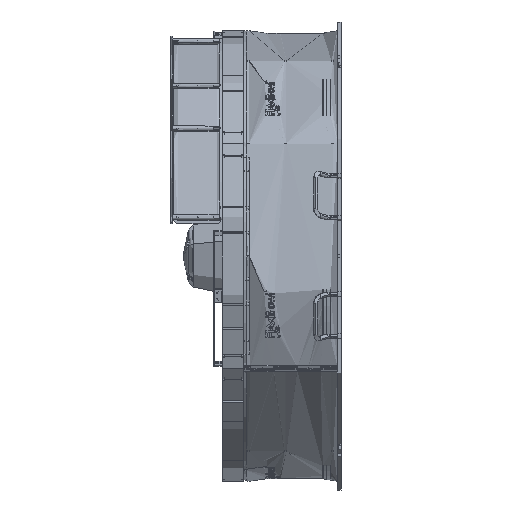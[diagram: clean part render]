
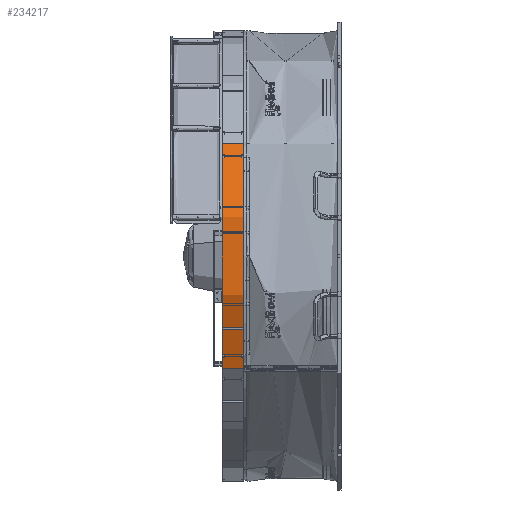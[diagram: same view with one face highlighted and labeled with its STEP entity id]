
A CAD part, left-side view. The second image highlights one B-rep face of the part: STEP entity #234217.
In plain terms, the highlighted cylindrical face has radius 622 mm (diameter 1244 mm), a partial arc.
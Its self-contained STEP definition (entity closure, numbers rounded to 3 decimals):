
#26990 = EDGE_CURVE ( 'NONE', #234038, #326981, #395951, .T. ) ;
#33300 = VERTEX_POINT ( 'NONE', #340400 ) ;
#41095 = DIRECTION ( 'NONE',  ( 0., 0., -1. ) ) ;
#54387 = ORIENTED_EDGE ( 'NONE', *, *, #186278, .T. ) ;
#59362 = CIRCLE ( 'NONE', #208095, 622. ) ;
#61788 = EDGE_CURVE ( 'NONE', #378449, #234038, #360384, .T. ) ;
#64782 = DIRECTION ( 'NONE',  ( -1., 0., 0. ) ) ;
#73923 = FACE_OUTER_BOUND ( 'NONE', #445733, .T. ) ;
#152810 = DIRECTION ( 'NONE',  ( -1., 0., 0. ) ) ;
#157647 = ORIENTED_EDGE ( 'NONE', *, *, #262641, .T. ) ;
#170725 = DIRECTION ( 'NONE',  ( -1., 0., 0. ) ) ;
#176539 = CARTESIAN_POINT ( 'NONE',  ( 0., 0., 60. ) ) ;
#179208 = DIRECTION ( 'NONE',  ( 0., 0., 1. ) ) ;
#186278 = EDGE_CURVE ( 'NONE', #33300, #378449, #59362, .T. ) ;
#188011 = CARTESIAN_POINT ( 'NONE',  ( 311., -538.668, 60. ) ) ;
#195189 = AXIS2_PLACEMENT_3D ( 'NONE', #319618, #284676, #170725 ) ;
#208095 = AXIS2_PLACEMENT_3D ( 'NONE', #362431, #41095, #152810 ) ;
#214140 = LINE ( 'NONE', #428371, #253555 ) ;
#234038 = VERTEX_POINT ( 'NONE', #346642 ) ;
#234217 = ADVANCED_FACE ( 'NONE', ( #73923 ), #281317, .T. ) ;
#253555 = VECTOR ( 'NONE', #179208, 1000. ) ;
#262641 = EDGE_CURVE ( 'NONE', #326981, #33300, #214140, .T. ) ;
#281317 = CYLINDRICAL_SURFACE ( 'NONE', #365792, 622. ) ;
#284676 = DIRECTION ( 'NONE',  ( 0., 0., 1. ) ) ;
#319618 = CARTESIAN_POINT ( 'NONE',  ( 0., 0., 1. ) ) ;
#326981 = VERTEX_POINT ( 'NONE', #389282 ) ;
#330038 = DIRECTION ( 'NONE',  ( 0., 0., -1. ) ) ;
#333712 = VECTOR ( 'NONE', #330038, 1000. ) ;
#335080 = ORIENTED_EDGE ( 'NONE', *, *, #26990, .T. ) ;
#340400 = CARTESIAN_POINT ( 'NONE',  ( 622., 0., 59. ) ) ;
#346642 = CARTESIAN_POINT ( 'NONE',  ( 311., -538.668, 1. ) ) ;
#353517 = DIRECTION ( 'NONE',  ( 0., 0., -1. ) ) ;
#360384 = LINE ( 'NONE', #188011, #333712 ) ;
#362431 = CARTESIAN_POINT ( 'NONE',  ( 0., 0., 59. ) ) ;
#365792 = AXIS2_PLACEMENT_3D ( 'NONE', #176539, #353517, #64782 ) ;
#373770 = CARTESIAN_POINT ( 'NONE',  ( 311., -538.668, 59. ) ) ;
#374758 = ORIENTED_EDGE ( 'NONE', *, *, #61788, .T. ) ;
#378449 = VERTEX_POINT ( 'NONE', #373770 ) ;
#389282 = CARTESIAN_POINT ( 'NONE',  ( 622., 0., 1. ) ) ;
#395951 = CIRCLE ( 'NONE', #195189, 622. ) ;
#428371 = CARTESIAN_POINT ( 'NONE',  ( 622., 0., 60. ) ) ;
#445733 = EDGE_LOOP ( 'NONE', ( #374758, #335080, #157647, #54387 ) ) ;
